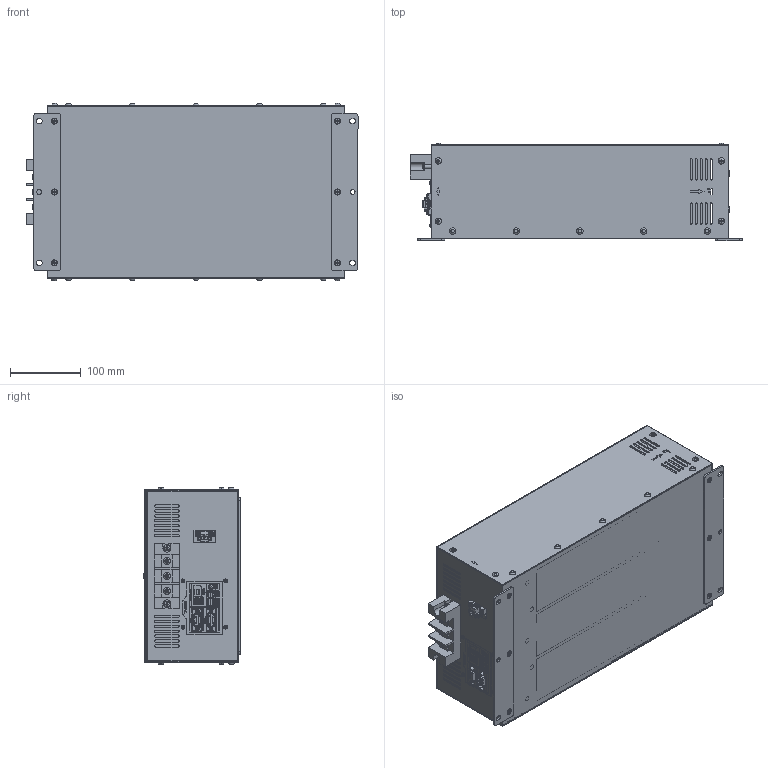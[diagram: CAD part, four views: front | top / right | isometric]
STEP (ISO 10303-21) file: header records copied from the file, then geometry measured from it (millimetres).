
FILE_DESCRIPTION(/* description */ (''),/* implementation_level */ '2;1');
FILE_NAME(/* name */ 'H:\04_배터리_전기종\고부하용 배터리 케이스_3D\[NEW] VX3COM 설계자용\VX3COM.stp',/* time_stamp */ '2023-09-05T11:08:25+09:00',/* author */ ('jjang'),/* organization */ (''),/* preprocessor_version */ 'ST-DEVELOPER v18.1',/* originating_system */ 'Autodesk Inventor 2021',/* authorisation */ '');
FILE_SCHEMA (('AUTOMOTIVE_DESIGN { 1 0 10303 214 3 1 1 }'));
Products named in the file (1): VX3COM_2023.09(UPDATED)_Shrinkwrap_1
Bounding box: 468 x 137.59 x 250.09 mm (x, y, z)
Volume: 9664815.6 mm3; surface area: 1213158.6 mm2
Topology: 7 solids, 7 shells, 4467 faces, 13363 edges, 9253 vertices
Faces by surface type: plane 2370, cylinder 1248, bspline 632, torus 129, cone 61, sphere 27
Full cylindrical faces by diameter (mm): 0.609 x1, 0.61 x27, 0.635 x9, 0.9 x6, 1.397 x9, 1.4 x2, 2.286 x9, 2.8 x8, 2.957 x4, 3 x2, 3.048 x4, 3.2 x4, 3.6 x10, 3.783 x2, 3.8 x8, 3.9 x2, 4 x31, 4.3 x12, 4.5 x8, 5 x17, 5.3 x20, 5.4 x2, 5.429 x2, 5.6 x4, 6 x2, 6.082 x1, 6.6 x2, 7 x5, 7.5 x6, 8 x1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
Entity records: 182643 total; most frequent: CARTESIAN_POINT 59910, ORIENTED_EDGE 26688, DIRECTION 22399, EDGE_CURVE 13344, VERTEX_POINT 9253, AXIS2_PLACEMENT_3D 7644, LINE 7111, VECTOR 7111
